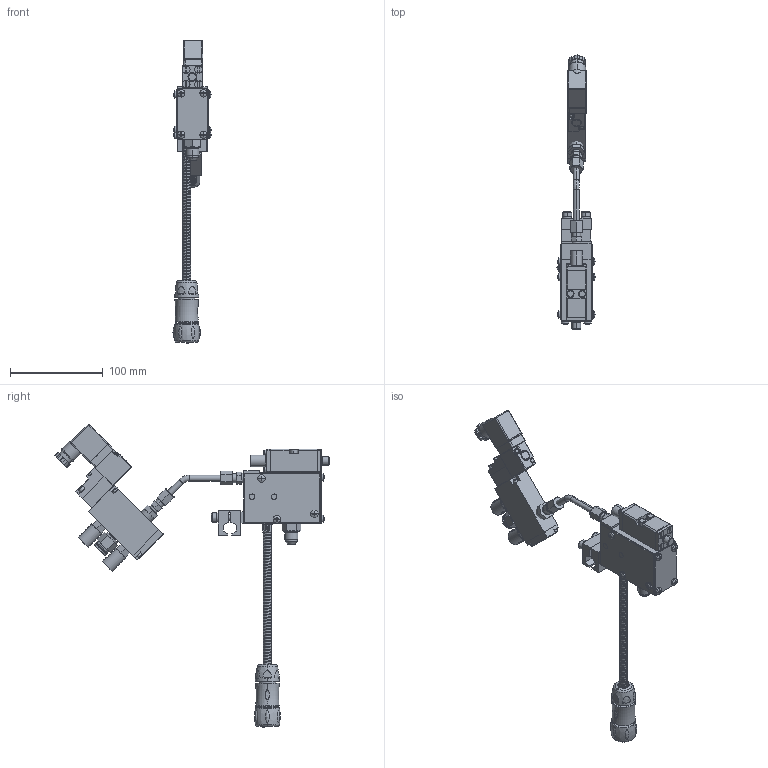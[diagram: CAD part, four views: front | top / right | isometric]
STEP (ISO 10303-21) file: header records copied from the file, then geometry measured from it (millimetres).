
FILE_DESCRIPTION((''),'2;1');
FILE_NAME('24U021-EN-L_PRT','2019-12-31T18:13:06',('qusrh3'),(''),'CREO PARAMETRIC BY PTC INC, 2019030','CREO PARAMETRIC BY PTC INC, 2019030','');
FILE_SCHEMA(('CONFIG_CONTROL_DESIGN'));
Products named in the file (1): 24U021-EN-L_PRT
Bounding box: 41.09 x 296.58 x 327.83 mm (x, y, z)
Surface area: 105964.4 mm2 (no closed solid volume)
Topology: 0 solids, 130 shells, 1054 faces, 2973 edges, 1962 vertices
Faces by surface type: plane 457, cylinder 317, cone 111, bspline 74, torus 52, sphere 43
Entity records: 53875 total; most frequent: CARTESIAN_POINT 27555, DIRECTION 5656, ORIENTED_EDGE 4980, EDGE_CURVE 2953, AXIS2_PLACEMENT_3D 2129, VERTEX_POINT 1962, VECTOR 1398, LINE 1398
